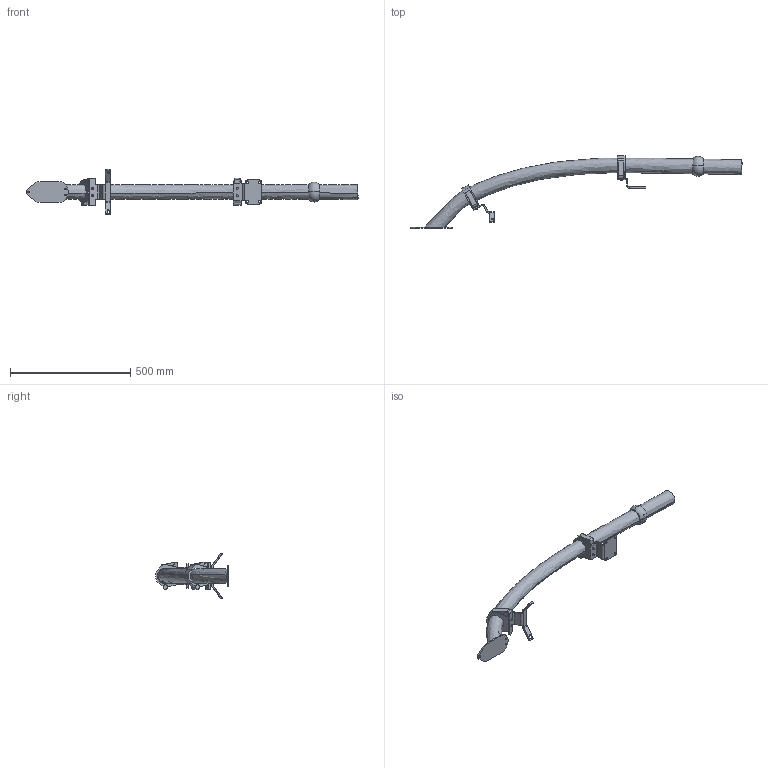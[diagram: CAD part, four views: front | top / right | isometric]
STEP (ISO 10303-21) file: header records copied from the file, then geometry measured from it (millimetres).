
FILE_DESCRIPTION (( 'STEP AP203' ), '1' );
FILE_NAME ('IRB8700-MH3_800-350_IRC5_rev00_LINK4_CABLE.STEP', '2015-06-04T08:19:48', ( 'ABB' ), ( 'ABB' ), 'SwSTEP 2.0', 'SolidWorks 2014', '' );
FILE_SCHEMA (( 'CONFIG_CONTROL_DESIGN' ));
Length unit declared in the file: millimetre
Products named in the file (1): IRB8700-MH3_800-350_IRC5_rev00_LINK4_CABLE
Bounding box: 1383 x 303.94 x 190.75 mm (x, y, z)
Volume: 4645504.8 mm3; surface area: 419334.8 mm2
Topology: 5 solids, 7 shells, 705 faces, 1831 edges, 1187 vertices
Faces by surface type: plane 340, cylinder 189, bspline 132, cone 40, torus 4
Entity records: 27714 total; most frequent: CARTESIAN_POINT 10865, ORIENTED_EDGE 3630, DIRECTION 3310, EDGE_CURVE 1815, VERTEX_POINT 1187, AXIS2_PLACEMENT_3D 1179, LINE 952, VECTOR 952
